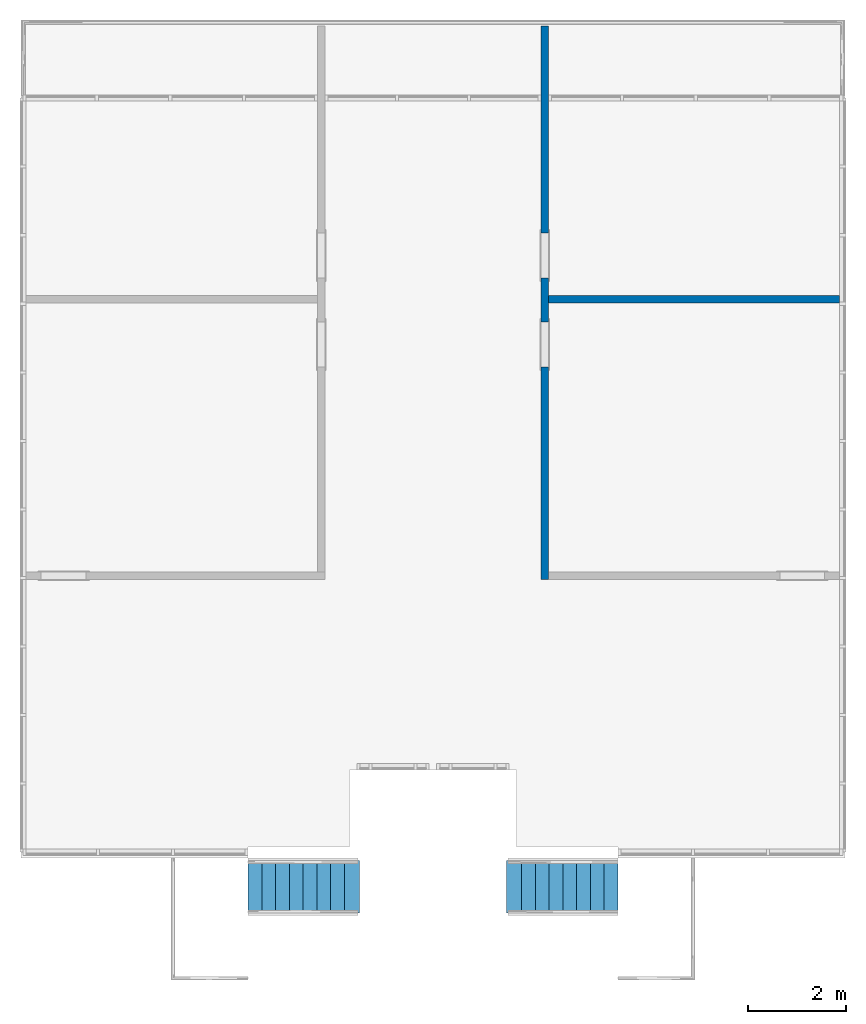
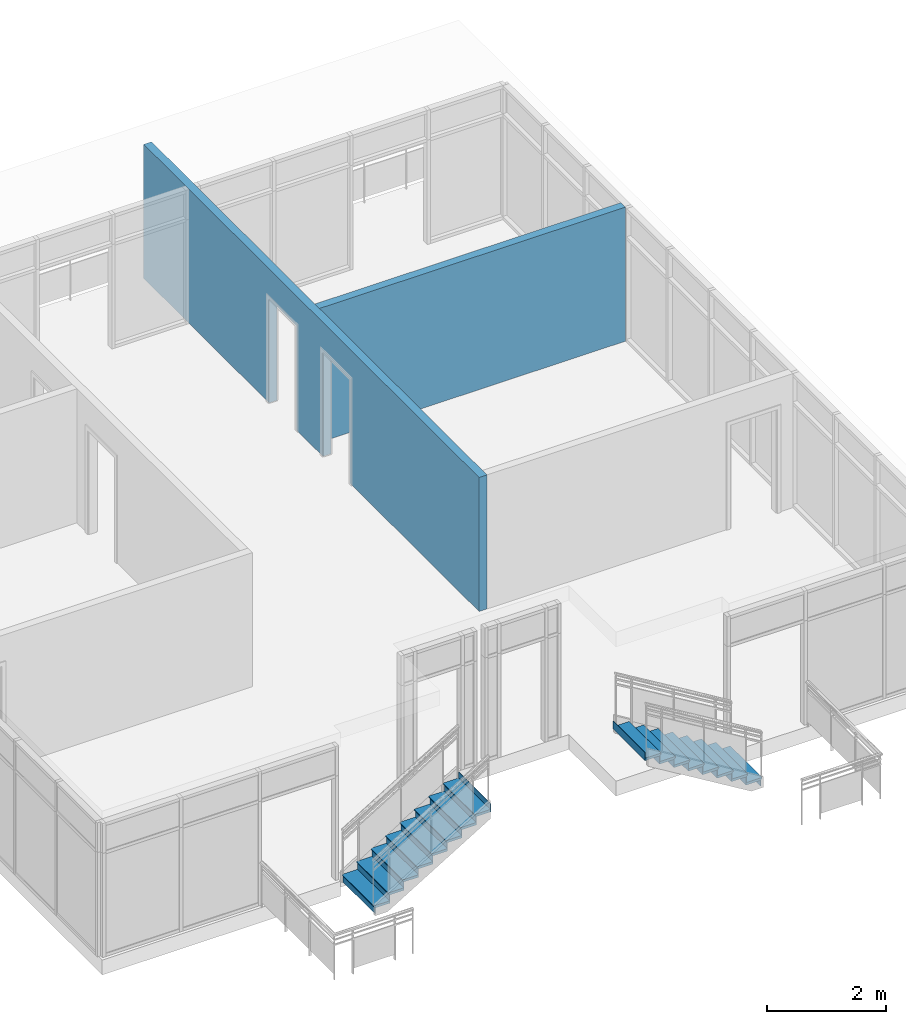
# One storey, part 7 of 11: 2 stair flights, 2 walls, 2 openings, 2 elements without a shape of their own.
"""IFC2X3 building model written with IfcOpenShell, lengths in feet."""

from ifc_helpers import new_model, entity, si_unit, converted_unit, derived_unit, direction, frame, frame_2d, origin, origin_2d_with_axis, place, context, subcontext, project, spatial, polyline, rectangle, outline, extrude, material, layer, layer_set, layer_usage, type_object, element, aggregate, save


model = new_model("IFC2X3")

# Units and contexts
model_context = context("Model", 3, precision=0.0001, world=origin(), true_north=direction((6.12303176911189e-17, 1.0)))
body_context = subcontext(model_context, "Body", "Model", "MODEL_VIEW")
ifc_project = project(units=[converted_unit("LENGTHUNIT", "FOOT", entity("IfcRatioMeasure", 0.3048), si_unit("LENGTHUNIT", "METRE"), dimensions=[1, 0, 0, 0, 0, 0, 0]), converted_unit("AREAUNIT", "SQUARE FOOT", entity("IfcRatioMeasure", 0.09290304), si_unit("AREAUNIT", "SQUARE_METRE"), dimensions=[2, 0, 0, 0, 0, 0, 0]), converted_unit("VOLUMEUNIT", "CUBIC FOOT", entity("IfcRatioMeasure", 0.028316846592), si_unit("VOLUMEUNIT", "CUBIC_METRE"), dimensions=[3, 0, 0, 0, 0, 0, 0]), converted_unit("PLANEANGLEUNIT", "DEGREE", entity("IfcRatioMeasure", 0.0174532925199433), si_unit("PLANEANGLEUNIT", "RADIAN"), dimensions=[0, 0, 0, 0, 0, 0, 0]), si_unit("MASSUNIT", "GRAM", prefix="KILO"), derived_unit("MASSDENSITYUNIT", [(si_unit("MASSUNIT", "GRAM", prefix="KILO"), 1), (si_unit("LENGTHUNIT", "METRE"), -3)]), si_unit("TIMEUNIT", "SECOND"), si_unit("FREQUENCYUNIT", "HERTZ"), si_unit("THERMODYNAMICTEMPERATUREUNIT", "DEGREE_CELSIUS"), derived_unit("THERMALTRANSMITTANCEUNIT", [(si_unit("MASSUNIT", "GRAM", prefix="KILO"), 1), (si_unit("THERMODYNAMICTEMPERATUREUNIT", "KELVIN"), -1), (si_unit("TIMEUNIT", "SECOND"), -3)]), derived_unit("VOLUMETRICFLOWRATEUNIT", [(si_unit("LENGTHUNIT", "METRE"), 3), (si_unit("TIMEUNIT", "SECOND"), -1)]), si_unit("ELECTRICCURRENTUNIT", "AMPERE"), si_unit("ELECTRICVOLTAGEUNIT", "VOLT"), si_unit("POWERUNIT", "WATT"), si_unit("FORCEUNIT", "NEWTON"), si_unit("ILLUMINANCEUNIT", "LUX"), si_unit("LUMINOUSFLUXUNIT", "LUMEN"), si_unit("LUMINOUSINTENSITYUNIT", "CANDELA"), derived_unit("USERDEFINED", [(si_unit("MASSUNIT", "GRAM", prefix="KILO"), -1), (si_unit("LENGTHUNIT", "METRE"), -2), (si_unit("TIMEUNIT", "SECOND"), 3), (si_unit("LUMINOUSFLUXUNIT", "LUMEN"), 1)]), derived_unit("LINEARVELOCITYUNIT", [(si_unit("LENGTHUNIT", "METRE"), 1), (si_unit("TIMEUNIT", "SECOND"), -1)]), si_unit("PRESSUREUNIT", "PASCAL"), derived_unit("USERDEFINED", [(si_unit("LENGTHUNIT", "METRE"), -2), (si_unit("MASSUNIT", "GRAM", prefix="KILO"), 1), (si_unit("TIMEUNIT", "SECOND"), -2)])], contexts=[model_context])

# Site, building, storey
site_placement = place(None, origin())
site = spatial("IfcSite", under=ifc_project, at=site_placement, Name="Default", CompositionType="ELEMENT")
building_placement = place(site_placement, origin())
building = spatial("IfcBuilding", under=site, at=building_placement, CompositionType="ELEMENT")
storey_placement = place(building_placement, frame((0.0, 0.0, 50.0)))
storey = spatial("IfcBuildingStorey", under=building, at=storey_placement, Name="L 9", CompositionType="ELEMENT", Elevation=49.9999999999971)

# Wall, openings
ifc_material = material(Name="Default Wall")
ifc_layer = layer(ifc_material, 0.5)
ifc_layer_set = layer_set([ifc_layer], Name="Basic Wall:Generic - 6\"")
ifc_layer_usage_1 = layer_usage(ifc_layer_set, "AXIS2", "NEGATIVE", 0.25)
wall_type = type_object("IfcWallType", Name="Basic Wall:Generic - 6\"", PredefinedType="STANDARD", material=ifc_layer_set)
wall_1_placement = place(storey_placement, frame((-26.5372839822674, 48.1421920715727, 0.0), z_axis=(0.0, 0.0, 1.0), x_axis=(0.0, -1.0, 0.0)))
wall_1 = element("IfcWallStandardCase", 1, at=wall_1_placement, inside=storey, type_object=wall_type, material=ifc_layer_usage_1, Name="Basic Wall:Generic - 6\"", ObjectType="Basic Wall:Generic - 6\":219", context=body_context, shape_type="SweptSolid", body=[
    extrude(rectangle(XDim=36.9027777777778, YDim=0.5, at=frame_2d((18.4513888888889, -6.66133814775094e-16), x_axis=(-1.0, 0.0))), origin(), (0.0, 0.0, 1.0), 9.0),
])
opening_1_placement = place(wall_1_placement, origin())
element("IfcOpeningElement", 2, at=opening_1_placement, cuts=wall_1, Name="Basic Wall:Generic - 6\"", ObjectType="Opening", context=body_context, shape_type="SweptSolid", body=[
    extrude(rectangle(XDim=7.0, YDim=3.0, at=frame_2d((0.0, 0.0), x_axis=(0.0, 1.0))), frame((15.2916666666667, -5.25, 3.5), z_axis=(0.0, 1.0, 0.0), x_axis=(1.0, 0.0, 0.0)), (0.0, 0.0, 1.0), 10.0),
])
opening_2_placement = place(wall_1_placement, origin())
element("IfcOpeningElement", 3, at=opening_2_placement, cuts=wall_1, Name="Basic Wall:Generic - 6\"", ObjectType="Opening", context=body_context, shape_type="SweptSolid", body=[
    extrude(rectangle(XDim=7.0, YDim=3.0, at=origin_2d_with_axis()), frame((21.2222222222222, -4.75, 3.5), z_axis=(0.0, 1.0, 0.0), x_axis=(0.0, 0.0, -1.0)), (0.0, 0.0, 1.0), 10.0),
])

# Wall
ifc_layer_usage_2 = layer_usage(ifc_layer_set, "AXIS2", "NEGATIVE", 0.25)
wall_2_placement = place(storey_placement, frame((-6.86682943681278, 29.9199698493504, 0.0), z_axis=(0.0, 0.0, 1.0), x_axis=(-1.0, 0.0, 0.0)))
element("IfcWallStandardCase", 4, at=wall_2_placement, inside=storey, type_object=wall_type, material=ifc_layer_usage_2, Name="Basic Wall:Generic - 6\"", ObjectType="Basic Wall:Generic - 6\":219", context=body_context, shape_type="SweptSolid", body=[
    extrude(rectangle(XDim=19.4204545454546, YDim=0.5, at=frame_2d((9.71022727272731, -4.02455846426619e-16), x_axis=(-1.0, 0.0))), origin(), (0.0, 0.0, 1.0), 9.0),
])

# Stair, stair flight
stair_1_placement = place(storey_placement, origin())
stair_1 = element("IfcStair", 5, at=stair_1_placement, inside=storey, Name="Assembled Stair:Stair", ObjectType="Assembled Stair:7\" max riser 11\" tread", ShapeType="NOTDEFINED")
stair_flight_1_placement = place(stair_1_placement, origin())
stair_flight_1 = element("IfcStairFlight", 6, at=stair_flight_1_placement, Name="Assembled Stair:Stair:206083 Run 1", ObjectType="Assembled Stair:7\" max riser 11\" tread", NumberOfRiser=9, NumberOfTreads=8, RiserHeight=0.555555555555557, TreadLength=0.916666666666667, context=body_context, shape_type="SweptSolid", body=[
    extrude(outline(polyline([(-0.0902777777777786, -0.638888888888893), (0.0763888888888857, -0.638888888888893), (0.0763888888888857, 0.277777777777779), (0.0555555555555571, 0.277777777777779), (-0.0277777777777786, 0.361111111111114), (-0.0902777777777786, 0.361111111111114), (-0.0902777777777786, -0.638888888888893)])), frame((-45.9640516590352, -11.0036412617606, 0.465277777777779), z_axis=(0.0, 1.0, 0.0), x_axis=(0.0, 0.0, -1.0)), (0.0, 0.0, 1.0), 3.5),
    extrude(rectangle(XDim=3.5, YDim=0.0208333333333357, at=frame_2d((0.0, 3.5527136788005e-15), x_axis=(1.0, 0.0))), frame((-46.2314127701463, -9.25364126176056, 0.0), z_axis=(0.0, 0.0, 1.0), x_axis=(0.0, 1.0, 0.0)), (0.0, 0.0, 1.0), 0.388888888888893),
    extrude(rectangle(XDim=3.5, YDim=0.0208333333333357, at=origin_2d_with_axis()), frame((-45.3147461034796, -9.25364126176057, 0.388888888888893), z_axis=(0.0, 0.0, 1.0), x_axis=(0.0, 1.0, 0.0)), (0.0, 0.0, 1.0), 0.555555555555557),
    extrude(outline(polyline([(-0.0902777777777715, -0.638888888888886), (0.0763888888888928, -0.638888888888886), (0.0763888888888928, 0.277777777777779), (0.0555555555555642, 0.277777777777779), (-0.0277777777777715, 0.361111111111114), (-0.0902777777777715, 0.361111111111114), (-0.0902777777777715, -0.638888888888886)])), frame((-45.0473849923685, -11.0036412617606, 1.02083333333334), z_axis=(0.0, 1.0, 0.0), x_axis=(0.0, 0.0, -1.0)), (0.0, 0.0, 1.0), 3.5),
    extrude(rectangle(XDim=3.5, YDim=0.0208333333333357, at=origin_2d_with_axis()), frame((-44.398079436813, -9.25364126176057, 0.94444444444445), z_axis=(0.0, 0.0, 1.0), x_axis=(0.0, 1.0, 0.0)), (0.0, 0.0, 1.0), 0.555555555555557),
    extrude(outline(polyline([(-0.0902777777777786, -0.638888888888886), (0.0763888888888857, -0.638888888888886), (0.0763888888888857, 0.277777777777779), (0.0555555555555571, 0.277777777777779), (-0.0277777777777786, 0.361111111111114), (-0.0902777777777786, 0.361111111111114), (-0.0902777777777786, -0.638888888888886)])), frame((-44.1307183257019, -11.0036412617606, 1.57638888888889), z_axis=(0.0, 1.0, 0.0), x_axis=(0.0, 0.0, -1.0)), (0.0, 0.0, 1.0), 3.5),
    extrude(rectangle(XDim=3.5, YDim=0.0208333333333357, at=origin_2d_with_axis()), frame((-43.4814127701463, -9.25364126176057, 1.50000000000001), z_axis=(0.0, 0.0, 1.0), x_axis=(0.0, 1.0, 0.0)), (0.0, 0.0, 1.0), 0.555555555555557),
    extrude(outline(polyline([(-0.0902777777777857, -0.638888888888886), (0.0763888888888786, -0.638888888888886), (0.0763888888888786, 0.277777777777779), (0.05555555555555, 0.277777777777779), (-0.0277777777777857, 0.361111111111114), (-0.0902777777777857, 0.361111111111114), (-0.0902777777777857, -0.638888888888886)])), frame((-43.2140516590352, -11.0036412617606, 2.13194444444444), z_axis=(0.0, 1.0, 0.0), x_axis=(0.0, 0.0, -1.0)), (0.0, 0.0, 1.0), 3.5),
    extrude(rectangle(XDim=3.5, YDim=0.0208333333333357, at=origin_2d_with_axis()), frame((-42.5647461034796, -9.25364126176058, 2.05555555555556), z_axis=(0.0, 0.0, 1.0), x_axis=(0.0, 1.0, 0.0)), (0.0, 0.0, 1.0), 0.555555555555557),
    extrude(outline(polyline([(-0.0902777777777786, -0.638888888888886), (0.0763888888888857, -0.638888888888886), (0.0763888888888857, 0.277777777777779), (0.0555555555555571, 0.277777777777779), (-0.0277777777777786, 0.361111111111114), (-0.0902777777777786, 0.361111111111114), (-0.0902777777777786, -0.638888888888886)])), frame((-42.2973849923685, -11.0036412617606, 2.68750000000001), z_axis=(0.0, 1.0, 0.0), x_axis=(0.0, 0.0, -1.0)), (0.0, 0.0, 1.0), 3.5),
    extrude(rectangle(XDim=3.5, YDim=0.0208333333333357, at=origin_2d_with_axis()), frame((-41.648079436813, -9.25364126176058, 2.61111111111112), z_axis=(0.0, 0.0, 1.0), x_axis=(0.0, 1.0, 0.0)), (0.0, 0.0, 1.0), 0.555555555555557),
    extrude(outline(polyline([(-0.0902777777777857, -0.638888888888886), (0.0763888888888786, -0.638888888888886), (0.0763888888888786, 0.277777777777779), (0.05555555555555, 0.277777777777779), (-0.0277777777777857, 0.361111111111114), (-0.0902777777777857, 0.361111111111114), (-0.0902777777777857, -0.638888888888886)])), frame((-41.3807183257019, -11.0036412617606, 3.24305555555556), z_axis=(0.0, 1.0, 0.0), x_axis=(0.0, 0.0, -1.0)), (0.0, 0.0, 1.0), 3.5),
    extrude(rectangle(XDim=3.5, YDim=0.0208333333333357, at=origin_2d_with_axis()), frame((-40.7314127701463, -9.25364126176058, 3.16666666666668), z_axis=(0.0, 0.0, 1.0), x_axis=(0.0, 1.0, 0.0)), (0.0, 0.0, 1.0), 0.555555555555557),
    extrude(outline(polyline([(-0.0902777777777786, -0.638888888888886), (0.0763888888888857, -0.638888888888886), (0.0763888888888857, 0.277777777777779), (0.0555555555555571, 0.277777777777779), (-0.0277777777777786, 0.361111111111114), (-0.0902777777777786, 0.361111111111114), (-0.0902777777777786, -0.638888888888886)])), frame((-40.4640516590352, -11.0036412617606, 3.79861111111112), z_axis=(0.0, 1.0, 0.0), x_axis=(0.0, 0.0, -1.0)), (0.0, 0.0, 1.0), 3.5),
    extrude(rectangle(XDim=3.5, YDim=0.0208333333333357, at=origin_2d_with_axis()), frame((-39.8147461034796, -9.25364126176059, 3.72222222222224), z_axis=(0.0, 0.0, 1.0), x_axis=(0.0, 1.0, 0.0)), (0.0, 0.0, 1.0), 0.555555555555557),
    extrude(rectangle(XDim=3.5, YDim=0.0208333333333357, at=frame_2d((0.0, -3.5527136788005e-15), x_axis=(1.0, 0.0))), frame((-38.898079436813, -9.25364126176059, 4.27777777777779), z_axis=(0.0, 0.0, 1.0), x_axis=(0.0, 1.0, 0.0)), (0.0, 0.0, 1.0), 0.555555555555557),
    extrude(outline(polyline([(-0.0902777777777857, -0.638888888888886), (0.0763888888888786, -0.638888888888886), (0.0763888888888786, 0.277777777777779), (0.05555555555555, 0.277777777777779), (-0.0277777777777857, 0.361111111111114), (-0.0902777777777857, 0.361111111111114), (-0.0902777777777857, -0.638888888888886)])), frame((-39.5473849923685, -11.0036412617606, 4.35416666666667), z_axis=(0.0, 1.0, 0.0), x_axis=(0.0, 0.0, -1.0)), (0.0, 0.0, 1.0), 3.50000000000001),
])
aggregate(stair_1, [stair_flight_1])

stair_2_placement = place(storey_placement, origin())
stair_2 = element("IfcStair", 7, at=stair_2_placement, inside=storey, Name="Assembled Stair:Stair", ObjectType="Assembled Stair:7\" max riser 11\" tread", ShapeType="NOTDEFINED")
stair_flight_2_placement = place(stair_2_placement, origin())
stair_flight_2 = element("IfcStairFlight", 8, at=stair_flight_2_placement, Name="Assembled Stair:Stair:206209 Run 1", ObjectType="Assembled Stair:7\" max riser 11\" tread", NumberOfRiser=9, NumberOfTreads=8, RiserHeight=0.555555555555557, TreadLength=0.916666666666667, context=body_context, shape_type="SweptSolid", body=[
    extrude(outline(polyline([(-0.0902777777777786, -0.361111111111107), (-0.0277777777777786, -0.361111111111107), (0.0555555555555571, -0.277777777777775), (0.0763888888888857, -0.277777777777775), (0.0763888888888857, 0.638888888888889), (-0.0902777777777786, 0.638888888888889), (-0.0902777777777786, -0.361111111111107)])), frame((-22.0196072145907, -11.0036412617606, 0.465277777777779), z_axis=(0.0, 1.0, 0.0), x_axis=(0.0, 0.0, -1.0)), (0.0, 0.0, 1.0), 3.5),
    extrude(rectangle(XDim=3.5, YDim=0.0208333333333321, at=frame_2d((0.0, -1.77635683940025e-15), x_axis=(1.0, 0.0))), frame((-21.7522461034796, -9.25364126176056, 0.0), z_axis=(0.0, 0.0, 1.0), x_axis=(0.0, -1.0, 0.0)), (0.0, 0.0, 1.0), 0.388888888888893),
    extrude(rectangle(XDim=3.5, YDim=0.0208333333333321, at=frame_2d((0.0, -1.77635683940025e-15), x_axis=(1.0, 0.0))), frame((-22.6689127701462, -9.25364126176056, 0.388888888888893), z_axis=(0.0, 0.0, 1.0), x_axis=(0.0, -1.0, 0.0)), (0.0, 0.0, 1.0), 0.555555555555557),
    extrude(outline(polyline([(-0.0902777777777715, -0.361111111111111), (-0.0277777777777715, -0.361111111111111), (0.0555555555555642, -0.277777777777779), (0.0763888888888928, -0.277777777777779), (0.0763888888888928, 0.638888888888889), (-0.0902777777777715, 0.638888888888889), (-0.0902777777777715, -0.361111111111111)])), frame((-22.9362738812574, -11.0036412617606, 1.02083333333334), z_axis=(0.0, 1.0, 0.0), x_axis=(0.0, 0.0, -1.0)), (0.0, 0.0, 1.0), 3.5),
    extrude(rectangle(XDim=3.5, YDim=0.0208333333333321, at=frame_2d((0.0, -1.77635683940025e-15), x_axis=(1.0, 0.0))), frame((-23.5855794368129, -9.25364126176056, 0.94444444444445), z_axis=(0.0, 0.0, 1.0), x_axis=(0.0, -1.0, 0.0)), (0.0, 0.0, 1.0), 0.555555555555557),
    extrude(outline(polyline([(-0.0902777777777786, -0.361111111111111), (-0.0277777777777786, -0.361111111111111), (0.0555555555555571, -0.277777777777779), (0.0763888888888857, -0.277777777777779), (0.0763888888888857, 0.638888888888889), (-0.0902777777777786, 0.638888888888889), (-0.0902777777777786, -0.361111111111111)])), frame((-23.852940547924, -11.0036412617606, 1.57638888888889), z_axis=(0.0, 1.0, 0.0), x_axis=(0.0, 0.0, -1.0)), (0.0, 0.0, 1.0), 3.5),
    extrude(rectangle(XDim=3.5, YDim=0.0208333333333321, at=frame_2d((0.0, 1.77635683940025e-15), x_axis=(1.0, 0.0))), frame((-24.5022461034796, -9.25364126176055, 1.50000000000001), z_axis=(0.0, 0.0, 1.0), x_axis=(0.0, -1.0, 0.0)), (0.0, 0.0, 1.0), 0.555555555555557),
    extrude(outline(polyline([(-0.0902777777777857, -0.361111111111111), (-0.0277777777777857, -0.361111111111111), (0.05555555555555, -0.277777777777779), (0.0763888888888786, -0.277777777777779), (0.0763888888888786, 0.638888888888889), (-0.0902777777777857, 0.638888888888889), (-0.0902777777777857, -0.361111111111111)])), frame((-24.7696072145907, -11.0036412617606, 2.13194444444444), z_axis=(0.0, 1.0, 0.0), x_axis=(0.0, 0.0, -1.0)), (0.0, 0.0, 1.0), 3.5),
    extrude(rectangle(XDim=3.5, YDim=0.0208333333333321, at=frame_2d((0.0, -1.77635683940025e-15), x_axis=(1.0, 0.0))), frame((-25.4189127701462, -9.25364126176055, 2.05555555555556), z_axis=(0.0, 0.0, 1.0), x_axis=(0.0, -1.0, 0.0)), (0.0, 0.0, 1.0), 0.555555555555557),
    extrude(outline(polyline([(-0.0902777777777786, -0.361111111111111), (-0.0277777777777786, -0.361111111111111), (0.0555555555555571, -0.277777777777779), (0.0763888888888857, -0.277777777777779), (0.0763888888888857, 0.638888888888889), (-0.0902777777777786, 0.638888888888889), (-0.0902777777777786, -0.361111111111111)])), frame((-25.6862738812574, -11.0036412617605, 2.68750000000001), z_axis=(0.0, 1.0, 0.0), x_axis=(0.0, 0.0, -1.0)), (0.0, 0.0, 1.0), 3.5),
    extrude(rectangle(XDim=3.5, YDim=0.0208333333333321, at=frame_2d((0.0, -1.77635683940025e-15), x_axis=(1.0, 0.0))), frame((-26.3355794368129, -9.25364126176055, 2.61111111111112), z_axis=(0.0, 0.0, 1.0), x_axis=(0.0, -1.0, 0.0)), (0.0, 0.0, 1.0), 0.555555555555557),
    extrude(outline(polyline([(-0.0902777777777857, -0.361111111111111), (-0.0277777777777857, -0.361111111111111), (0.05555555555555, -0.277777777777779), (0.0763888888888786, -0.277777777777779), (0.0763888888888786, 0.638888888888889), (-0.0902777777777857, 0.638888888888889), (-0.0902777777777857, -0.361111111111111)])), frame((-26.602940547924, -11.0036412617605, 3.24305555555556), z_axis=(0.0, 1.0, 0.0), x_axis=(0.0, 0.0, -1.0)), (0.0, 0.0, 1.0), 3.5),
    extrude(rectangle(XDim=3.5, YDim=0.0208333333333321, at=frame_2d((0.0, -1.77635683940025e-15), x_axis=(1.0, 0.0))), frame((-27.2522461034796, -9.25364126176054, 3.16666666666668), z_axis=(0.0, 0.0, 1.0), x_axis=(0.0, -1.0, 0.0)), (0.0, 0.0, 1.0), 0.555555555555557),
    extrude(outline(polyline([(-0.0902777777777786, -0.361111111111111), (-0.0277777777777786, -0.361111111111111), (0.0555555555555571, -0.277777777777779), (0.0763888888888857, -0.277777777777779), (0.0763888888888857, 0.638888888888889), (-0.0902777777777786, 0.638888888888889), (-0.0902777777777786, -0.361111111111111)])), frame((-27.5196072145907, -11.0036412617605, 3.79861111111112), z_axis=(0.0, 1.0, 0.0), x_axis=(0.0, 0.0, -1.0)), (0.0, 0.0, 1.0), 3.5),
    extrude(rectangle(XDim=3.5, YDim=0.0208333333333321, at=frame_2d((0.0, -1.77635683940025e-15), x_axis=(1.0, 0.0))), frame((-28.1689127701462, -9.25364126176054, 3.72222222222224), z_axis=(0.0, 0.0, 1.0), x_axis=(0.0, -1.0, 0.0)), (0.0, 0.0, 1.0), 0.555555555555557),
    extrude(rectangle(XDim=3.5, YDim=0.0208333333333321, at=frame_2d((0.0, -1.77635683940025e-15), x_axis=(1.0, 0.0))), frame((-29.0855794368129, -9.25364126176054, 4.27777777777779), z_axis=(0.0, 0.0, 1.0), x_axis=(0.0, -1.0, 0.0)), (0.0, 0.0, 1.0), 0.555555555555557),
    extrude(outline(polyline([(-0.0902777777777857, -0.361111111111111), (-0.0277777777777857, -0.361111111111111), (0.05555555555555, -0.277777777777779), (0.0763888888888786, -0.277777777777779), (0.0763888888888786, 0.638888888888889), (-0.0902777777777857, 0.638888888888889), (-0.0902777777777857, -0.361111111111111)])), frame((-28.4362738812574, -11.0036412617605, 4.35416666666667), z_axis=(0.0, 1.0, 0.0), x_axis=(0.0, 0.0, -1.0)), (0.0, 0.0, 1.0), 3.5),
])
aggregate(stair_2, [stair_flight_2])

save(model, "model.ifc")
